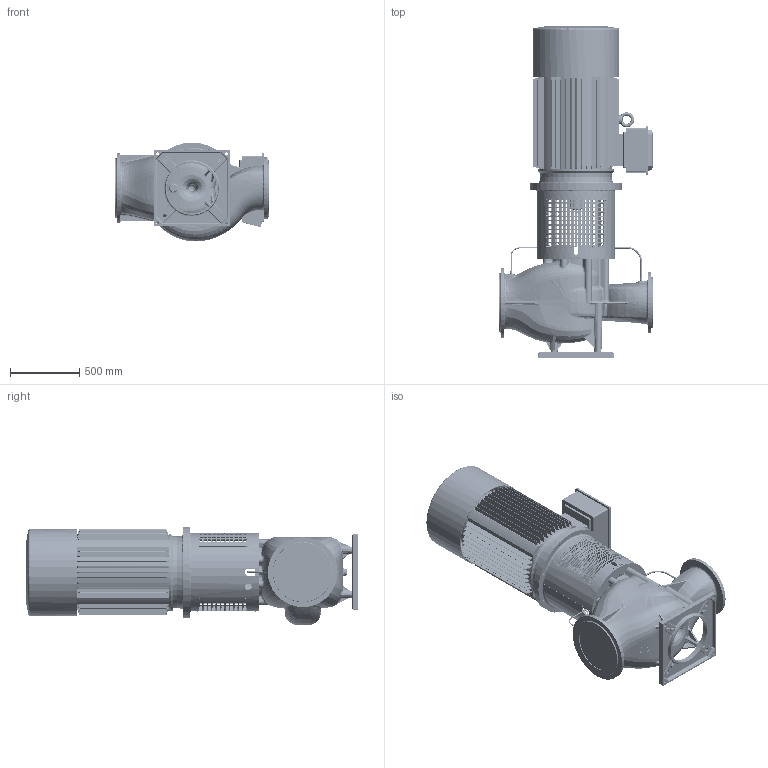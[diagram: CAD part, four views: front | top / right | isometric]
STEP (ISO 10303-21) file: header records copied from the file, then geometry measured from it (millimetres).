
FILE_DESCRIPTION((''),'2;1');
FILE_NAME('DSL300-320_A-G_ASM','2019-04-23T',('brhe'),(''),'PRO/ENGINEER BY PARAMETRIC TECHNOLOGY CORPORATION, 2017170','PRO/ENGINEER BY PARAMETRIC TECHNOLOGY CORPORATION, 2017170','');
FILE_SCHEMA(('CONFIG_CONTROL_DESIGN'));
Length unit declared in the file: millimetre
Products named in the file (21): 509922; 106416; 713165; 714865; 506954; 708438; 714915; 657915_ASM; 111111; 708069; 708070; 655410_ASM; 657916_ASM; 509983; 111167_AF0; 111167_AF1; 706717; 657920_ASM; 844660; 704390; DSL300-320_A-G_ASM
Assembly tree (34 placements, depth 4):
  DSL300-320_A-G_ASM
    657916_ASM
      657915_ASM
        509922
        106416
        713165
        714865
        506954
        708438
        714915
      655410_ASM
        111111
        708069  x4
        708070  x4
    657920_ASM
      509983
      111167_AF0
      111167_AF1
      706717  x8
    844660
    704390  x2
Bounding box: 1112 x 2404 x 715.43 mm (x, y, z)
Volume: 483169327.6 mm3; surface area: 28893357.9 mm2
Topology: 30 solids, 142 shells, 9492 faces, 27083 edges, 17765 vertices
Faces by surface type: plane 4190, bspline 3134, cylinder 1490, cone 383, torus 156, extrusion 77, sphere 62
Entity records: 755033 total; most frequent: CARTESIAN_POINT 534808, ORIENTED_EDGE 52018, DIRECTION 32962, EDGE_CURVE 26391, VERTEX_POINT 17357, VECTOR 13426, LINE 13349, EDGE_LOOP 11759
